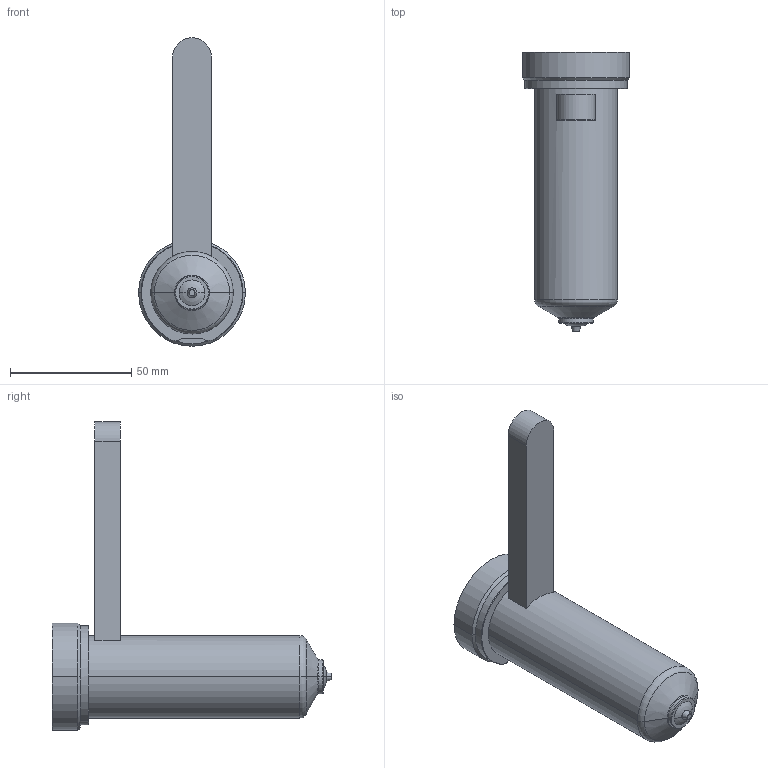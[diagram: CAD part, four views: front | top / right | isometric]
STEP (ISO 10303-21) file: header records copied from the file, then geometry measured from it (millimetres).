
FILE_DESCRIPTION((''),'2;1');
FILE_NAME('EO10_VG-BL_STD_100_COT','2024-02-19T13:09:23',('sundharh'),(''),'CREO PARAMETRIC BY PTC INC, 2023154','CREO PARAMETRIC BY PTC INC, 2023154','');
FILE_SCHEMA(('CONFIG_CONTROL_DESIGN'));
Length unit declared in the file: millimetre
Products named in the file (1): EO10_VG-BL_STD_100_COT
Bounding box: 44 x 115 x 127 mm (x, y, z)
Volume: 120406.6 mm3; surface area: 19248.8 mm2
Topology: 1 solids, 1 shells, 38 faces, 81 edges, 48 vertices
Faces by surface type: cylinder 11, plane 10, torus 9, cone 6, sphere 2
Entity records: 1143 total; most frequent: CARTESIAN_POINT 255, DIRECTION 199, ORIENTED_EDGE 162, AXIS2_PLACEMENT_3D 86, EDGE_CURVE 81, VERTEX_POINT 48, CIRCLE 48, EDGE_LOOP 41
